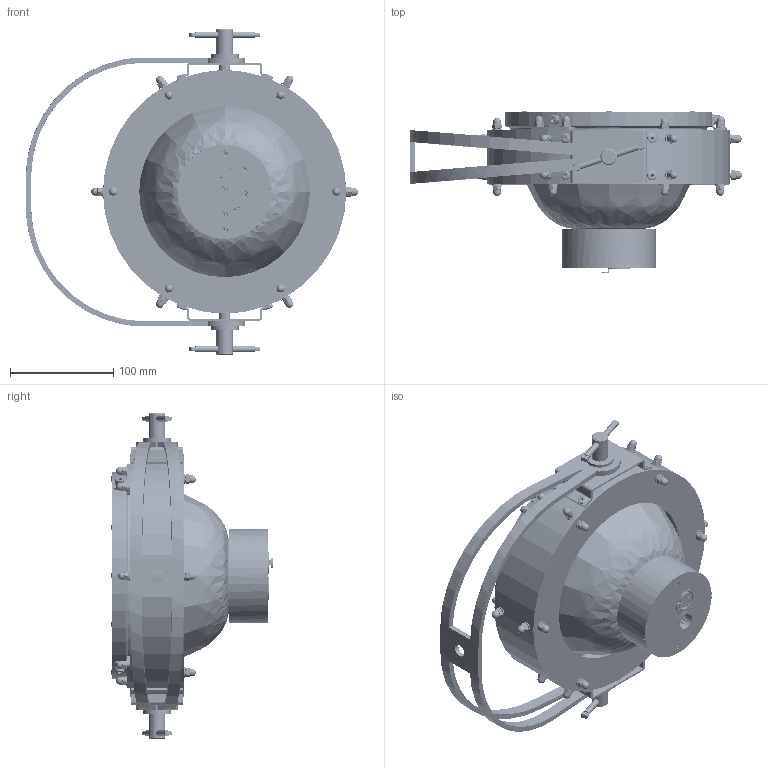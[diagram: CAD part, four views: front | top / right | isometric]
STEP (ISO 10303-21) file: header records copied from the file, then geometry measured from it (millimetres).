
FILE_DESCRIPTION(/* description */ ('Unknown'),/* implementation_level */ '2;1');
FILE_NAME(/* name */ '3D_onePATT_Full',/* time_stamp */ '2021-01-14T15:06:52+01:00',/* author */ ('Ing.Rostislav HĂˇba'),/* organization */ ('ROBE lighting'),/* preprocessor_version */ 'ST-DEVELOPER v16.7',/* originating_system */ 'Solid Edge',/* authorisation */ 'Unknown');
FILE_SCHEMA (('AP242_MANAGED_MODEL_BASED_3D_ENGINEERING_MIM_LF { 1 0 10303 442 1 1 4 }','AUTOMOTIVE_DESIGN {1 0 10303 214 3 1 1}'));
Products named in the file (53): onePATT; Parabola 20cm komplet singl; 14010045 Parabola 20cm PixelPATT; 12051181 Základna LED; 13032131 RB8480; 18010008 Šr.Køíž.pulkul. M3x8; 18550014 V骹薠ovka pr 5; 18010058 Šr.køíž.zápustný M3x14; 12051287 Distance elektroniky; 18010254 Šr.Køíž.pulkul. M3x4; 11016407 Uchyt paraboly; 18510023 Šr.imbusový M5x10; 19020090-02 Cover DOT; 17041537 S癃o mercedes pro par.20cm; S癃o; 11016085 Èelní díl síta; 18040002 Matice zálisná M5; 18060060 Nýt trhací 3x10 pro tl 6; 11016086 Zadní díl síta; 11016410 Základna elektroniky; Pl᚝ komplet; 11016404 Zadní disk onePATT; 17041655 Pl᚝ onePATT; 11016405 Plášt onePATT; 11016406 Nosník pro závìs onePATT; 18060235 Nýt trhací D5xL12 Fe pro Tl 4; 18040037 Matice nýtovací M8 AVDEL zápustná; 11016403 Pøední disk onePATT; 17041261 Uhelnik s 鋀py; 11015326 Uhelnik pro montáž pláštì; 18060233 Èep lisovací závitový FHLS M5x10; 17041654 Uhelnik pro montáž pláštì onePATT; 11016412 Úhelník pro montáž pláštì a paraboly; 18060232 Lisovací šroubový èep FH M5x08; 18060255 Lisovací šroubový èep FH M5x12; 18550007 Podložka 5; 18540080 Matice M5 uzavøená; 19040189 Tøecí kroužek PF; 12051288 Distance pro zadní víèko; RB3931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
Assembly tree (154 placements, depth 4):
  onePATT
    Parabola 20cm komplet singl
      14010045 Parabola 20cm PixelPATT
      12051181 Základna LED
      13032131 RB8480
      18010008 Šr.Køíž.pulkul. M3x8  x4
      18550014 V骹薠ovka pr 5  x3
      18010058 Šr.køíž.zápustný M3x14  x2
      12051287 Distance elektroniky  x2
      18010254 Šr.Køíž.pulkul. M3x4  x2
      11016407 Uchyt paraboly  x3
      18510023 Šr.imbusový M5x10  x3
      19020090-02 Cover DOT
      17041537 S癃o mercedes pro par.20cm
        S癃o
        11016085 Èelní díl síta
        18040002 Matice zálisná M5  x3
        18060060 Nýt trhací 3x10 pro tl 6  x7
        11016086 Zadní díl síta
      11016410 Základna elektroniky
    Pl᚝ komplet
      11016404 Zadní disk onePATT
      17041655 Pl᚝ onePATT
        11016405 Plášt onePATT  x2
        11016406 Nosník pro závìs onePATT  x2
        18060235 Nýt trhací D5xL12 Fe pro Tl 4  x8
        18040037 Matice nýtovací M8 AVDEL zápustná  x2
      11016403 Pøední disk onePATT
      17041261 Uhelnik s 鋀py  x9
        11015326 Uhelnik pro montáž pláštì
        18060233 Èep lisovací závitový FHLS M5x10
      17041654 Uhelnik pro montáž pláštì onePATT  x3
        11016412 Úhelník pro montáž pláštì a paraboly
        18060232 Lisovací šroubový èep FH M5x08
        18060255 Lisovací šroubový èep FH M5x12
      18550007 Podložka 5  x21
      18540080 Matice M5 uzavøená  x21
    18540080 Matice M5 uzavøená  x6
    18550007 Podložka 5  x6
    19040189 Tøecí kroužek PF  x2
    12051288 Distance pro zadní víèko  x2
    RB3931
      RB3931-V1.1
      13052519 Konektor Neutrik NC4MBV
      13052518 Konektor Neutrik NC4FBV
    17031069 Klièka M8  x2
      Klièka šroub M8
      Klièka pro šroub M8
    11030926 Kryt elektroniky onePATT 
      11016551 萫lo krytu elektroniky
      11016410 Plášt krytu elektroniky
    18550017 Podložka M8 velkoplošná  x2
    18520006 Šr.køíž.samoøez zápustný 2,9x9,5  x4
    18510033 Šr.køíž.zápustný M3x6  x2
    11016520 Z嫛鮀 onePATT plech
Bounding box: 320.9 x 156.07 x 316 mm (x, y, z)
Volume: 502122 mm3; surface area: 592339.3 mm2
Topology: 170 solids, 170 shells, 4375 faces, 10638 edges, 6917 vertices
Faces by surface type: plane 2924, cylinder 799, cone 495, torus 110, bspline 39, sphere 8
Full cylindrical faces by diameter (mm): 1.2 x6, 1.325 x1, 1.487 x1, 1.59 x4, 1.6 x18, 1.7 x8, 1.8 x7, 2.35 x4, 2.459 x4, 2.5 x8, 2.621 x4, 2.9 x4, 3 x27, 3.2 x18, 3.3 x14, 3.5 x2, 4.134 x27, 4.2 x3, 5 x68, 5.3 x30, 5.4 x10, 5.5 x47, 5.6 x6, 6 x9, 6.4 x3, 6.5 x32, 6.8 x2, 7 x2, 7.5 x27, 7.703 x2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
Entity records: 87171 total; most frequent: CARTESIAN_POINT 17720, ORIENTED_EDGE 12020, DIRECTION 11942, EDGE_CURVE 6010, LINE 4742, VECTOR 4742, VERTEX_POINT 4127, AXIS2_PLACEMENT_3D 3600
